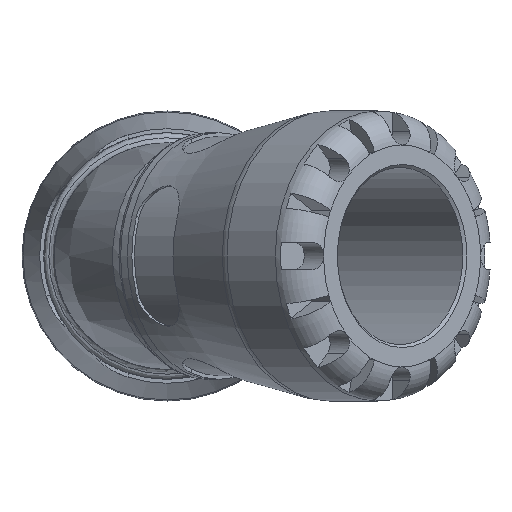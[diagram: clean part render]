
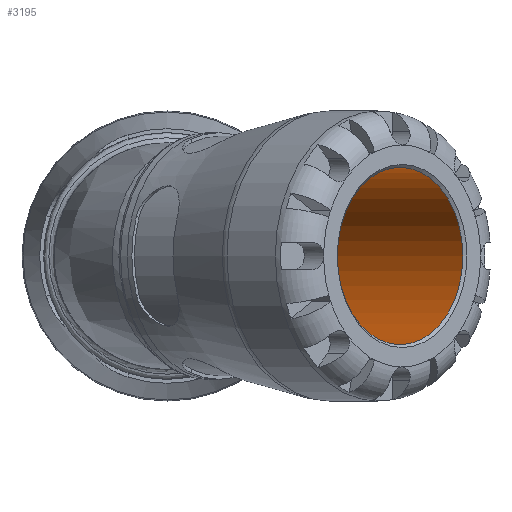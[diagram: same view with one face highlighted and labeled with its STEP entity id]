
A CAD part, left-side view. The second image highlights one B-rep face of the part: STEP entity #3195.
In plain terms, the highlighted cylindrical face has radius 31.5 mm (diameter 63 mm), a full revolution.
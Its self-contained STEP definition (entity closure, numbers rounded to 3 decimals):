
#468=CYLINDRICAL_SURFACE('',#3422,31.5);
#656=FACE_BOUND('',#914,.T.);
#711=FACE_OUTER_BOUND('',#913,.T.);
#913=EDGE_LOOP('',(#2137));
#914=EDGE_LOOP('',(#2138));
#1135=CIRCLE('',#3421,31.5);
#1136=CIRCLE('',#3423,31.5);
#1321=VERTEX_POINT('',#5155);
#1322=VERTEX_POINT('',#5158);
#1638=EDGE_CURVE('',#1321,#1321,#1135,.T.);
#1639=EDGE_CURVE('',#1322,#1322,#1136,.T.);
#2137=ORIENTED_EDGE('',*,*,#1639,.F.);
#2138=ORIENTED_EDGE('',*,*,#1638,.F.);
#3195=ADVANCED_FACE('',(#711,#656),#468,.F.);
#3421=AXIS2_PLACEMENT_3D('',#5156,#3862,#3863);
#3422=AXIS2_PLACEMENT_3D('',#5157,#3864,#3865);
#3423=AXIS2_PLACEMENT_3D('',#5159,#3866,#3867);
#3862=DIRECTION('center_axis',(0.707,0.707,0.));
#3863=DIRECTION('ref_axis',(-0.707,0.707,0.));
#3864=DIRECTION('center_axis',(-0.707,-0.707,0.));
#3865=DIRECTION('ref_axis',(0.707,-0.707,0.));
#3866=DIRECTION('center_axis',(-0.707,-0.707,0.));
#3867=DIRECTION('ref_axis',(0.,0.,-1.));
#5155=CARTESIAN_POINT('',(-60.436,-104.984,0.));
#5156=CARTESIAN_POINT('Origin',(-82.71,-82.71,0.));
#5157=CARTESIAN_POINT('Origin',(-51.619,-51.619,0.));
#5158=CARTESIAN_POINT('',(2.475,-42.073,0.));
#5159=CARTESIAN_POINT('Origin',(-19.799,-19.799,0.));
